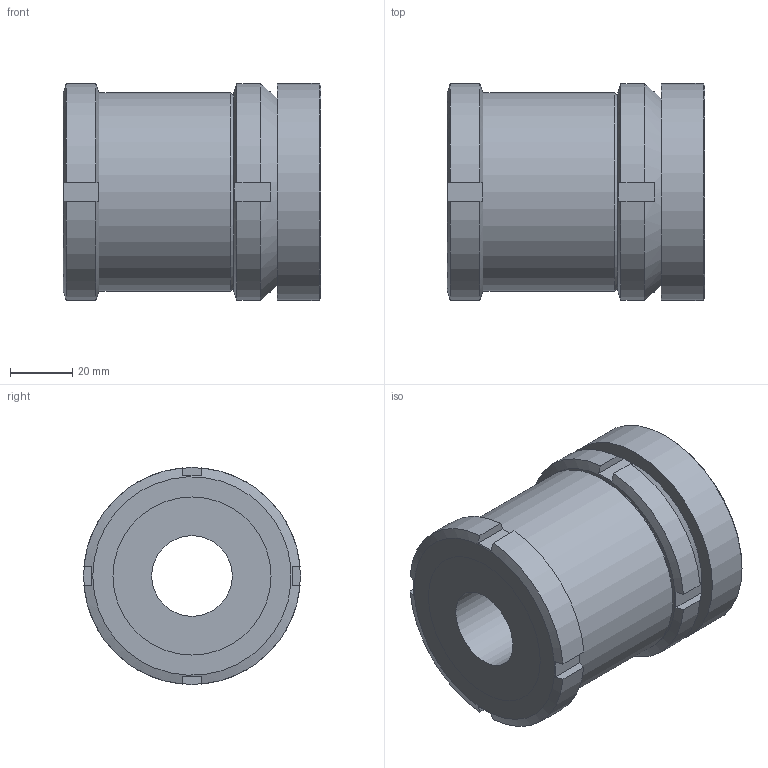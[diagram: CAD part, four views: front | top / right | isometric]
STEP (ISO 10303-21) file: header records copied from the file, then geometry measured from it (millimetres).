
FILE_DESCRIPTION( ( 'STEP AP203' ), '1' );
FILE_NAME( 'C:/Temp/Ganter_Step_05_03_2020/data/3_2/gn350_2/gn_350_2_ni/Stainless Steel-Levelling set GN 350.2-70-26-83-NI (0-0).stp', '2020-03-13T05:28:15', ( 'License CC BY-ND 4.0' ), ( 'CADENAS' ), ' ', 'PARTsolutions', ' ' );
FILE_SCHEMA( ( 'CONFIG_CONTROL_DESIGN' ) );
Length unit declared in the file: millimetre
Products named in the file (4): Stainless Steel-Levelling set GN 350.2-70-26-83-NI (0-0); _Levelling set GN 350.2-70-26-83-ST-G; _Levelling set GN 350.2-70-26-83-ST-K; _Levelling set GN 350.2-70-26-83-ST-P(0)
Assembly tree (3 placements, depth 2):
  Stainless Steel-Levelling set GN 350.2-70-26-83-NI (0-0)
    _Levelling set GN 350.2-70-26-83-ST-G
    _Levelling set GN 350.2-70-26-83-ST-K
    _Levelling set GN 350.2-70-26-83-ST-P(0)
Bounding box: 83 x 70 x 70 mm (x, y, z)
Volume: 236722.1 mm3; surface area: 59065.5 mm2
Topology: 3 solids, 3 shells, 62 faces, 149 edges, 99 vertices
Faces by surface type: plane 36, cylinder 19, cone 5, sphere 2
Full cylindrical faces by diameter (mm): 26 x1, 40 x1, 43.529 x1, 44.5 x1, 48.376 x1, 49 x1, 50 x1, 51 x2, 64 x1, 70 x1
Entity records: 1925 total; most frequent: CARTESIAN_POINT 462, DIRECTION 276, ORIENTED_EDGE 248, EDGE_CURVE 124, AXIS2_PLACEMENT_3D 122, EDGE_LOOP 92, VERTEX_POINT 92, FACE_OUTER_BOUND 75
